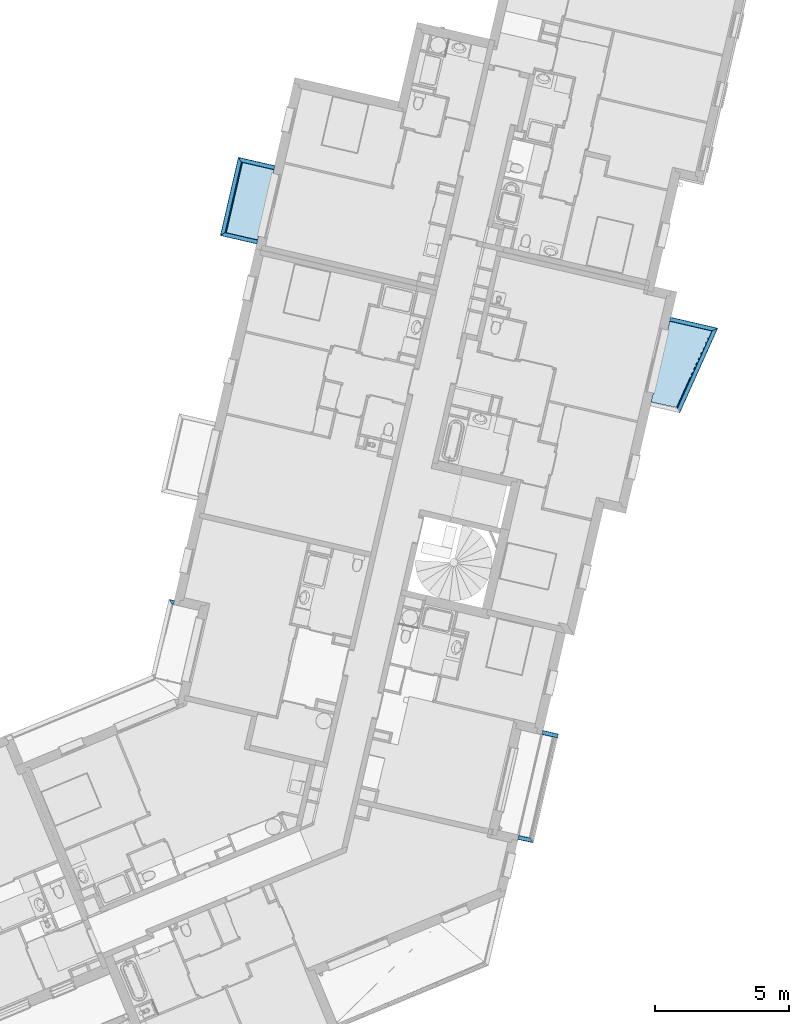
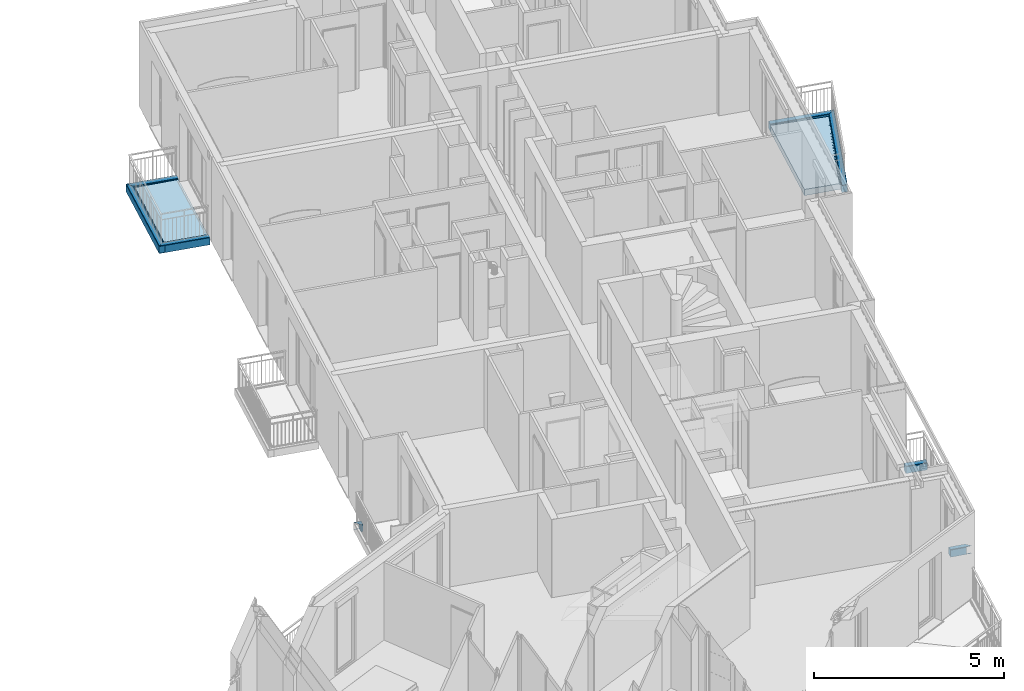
# One storey, part 2 of 91: 10 slabs.
"""IFC2X3 building model written with IfcOpenShell, lengths in metres."""

from ifc_helpers import new_model, entity, si_unit, converted_unit, derived_unit, money_unit, direction, frame, origin_with_axes, place, context, subcontext, project, spatial, faceted_brep, material, type_object, element, save


model = new_model("IFC2X3")

# Units and contexts
model_context = context("Model", 3, precision=1e-05, world=origin_with_axes(), true_north=direction((0.0, 1.0)))
body_context = subcontext(model_context, "Body", "Model", "MODEL_VIEW")
ifc_project = project(units=[si_unit("LENGTHUNIT", "METRE"), si_unit("AREAUNIT", "SQUARE_METRE"), si_unit("VOLUMEUNIT", "CUBIC_METRE"), converted_unit("PLANEANGLEUNIT", "DEGREE", entity("IfcPlaneAngleMeasure", 0.0174532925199), si_unit("PLANEANGLEUNIT", "RADIAN"), dimensions=[0, 0, 0, 0, 0, 0, 0]), si_unit("SOLIDANGLEUNIT", "STERADIAN"), money_unit("EUR"), converted_unit("TIMEUNIT", "Year", entity("IfcTimeMeasure", 31556926.0), si_unit("TIMEUNIT", "SECOND"), dimensions=[0, 0, 1, 0, 0, 0, 0]), si_unit("MASSUNIT", "GRAM", prefix="KILO"), si_unit("THERMODYNAMICTEMPERATUREUNIT", "DEGREE_CELSIUS"), si_unit("LUMINOUSINTENSITYUNIT", "LUMEN"), si_unit("ENERGYUNIT", "JOULE", prefix="MEGA"), derived_unit("THERMALCONDUCTANCEUNIT", [(si_unit("POWERUNIT", "WATT"), 1), (si_unit("LENGTHUNIT", "METRE"), -1), (si_unit("THERMODYNAMICTEMPERATUREUNIT", "KELVIN"), -1)]), derived_unit("SPECIFICHEATCAPACITYUNIT", [(si_unit("ENERGYUNIT", "JOULE"), 1), (si_unit("MASSUNIT", "GRAM", prefix="KILO"), -1), (si_unit("THERMODYNAMICTEMPERATUREUNIT", "KELVIN"), -1)]), derived_unit("MASSDENSITYUNIT", [(si_unit("MASSUNIT", "GRAM", prefix="KILO"), 1), (si_unit("VOLUMEUNIT", "CUBIC_METRE"), -1)])], contexts=[model_context])

# Site, building, storey
site_placement = place(None, origin_with_axes())
site = spatial("IfcSite", under=ifc_project, at=site_placement, Name="Site", CompositionType="ELEMENT")
building_placement = place(site_placement, origin_with_axes())
building = spatial("IfcBuilding", under=site, at=building_placement, Name="Bâtiment", CompositionType="ELEMENT")
storey_placement = place(building_placement, frame((0.0, 0.0, 5.44), z_axis=(0.0, 0.0, 1.0), x_axis=(1.0, 0.0, 0.0)))
storey = spatial("IfcBuildingStorey", under=building, at=storey_placement, Name="R+2", CompositionType="ELEMENT", Elevation=5.44)

# Slabs
ifc_material = material(Name="Béton")
slab_type_1 = type_object("IfcSlabType", Name="Nez de balcon 160 x 239", PredefinedType="USERDEFINED")
slab_1_placement = place(storey_placement, frame((-6.19823951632, -13.9378943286, -0.22), z_axis=(0.0, 0.0, 1.0), x_axis=(0.974387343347, -0.224876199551, 0.0)))
element("IfcSlab", 1, at=slab_1_placement, inside=storey, type_object=slab_type_1, material=ifc_material, Name="Nez-de-balcon béton", ObjectType="BALCONY", PredefinedType="USERDEFINED", context=body_context, shape_type="Brep", body=[
    faceted_brep([(0.550259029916, -0.0347409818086, 0.0), (0.553544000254, -0.0314560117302, 0.00622819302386), (0.553544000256, -0.16, 0.00622819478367), (0.550259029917, -0.16, 0.0), (-0.0149999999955, -0.0347409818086, 0.0), (-0.0149999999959, -0.0314560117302, 0.00622819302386), (0.560129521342, -0.0248704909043, 0.00872064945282), (0.560129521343, -0.16, 0.00872064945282), (-0.0149999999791, -0.16, 0.02), (-0.0149999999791, -0.16, 0.00999999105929), (-0.0149999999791, -0.16, 0.00872064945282), (-0.0149999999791, -0.16, 0.0), (0.585000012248, -0.16, 0.00872064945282), (0.585000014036, -0.16, 0.22), (-0.0149999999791, -0.16, 0.22), (-0.0149999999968, -0.0248704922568, 0.00872065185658), (0.585000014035, -0.0248704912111, 0.00872065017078), (-0.015, 0.0, 0.02), (-0.015, 0.0, 0.00999999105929), (-0.015, 0.0, 0.00872065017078), (0.585000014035, 0.0, 0.230000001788), (0.585000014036, -0.150605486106, 0.230000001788), (0.585000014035, -0.018284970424, 0.00622819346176), (0.585000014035, -0.015, 0.0), (0.585000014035, 0.0, 0.0), (0.58433602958, -0.150019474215, 0.230623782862), (-0.0149999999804, -0.150019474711, 0.230623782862), (-0.015, 0.0, 0.22), (-0.0149999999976, -0.0182849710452, 0.00622819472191), (-0.015, 0.0, 0.0), (-0.015, 0.0, 0.230000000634), (-0.014999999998, -0.0150000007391, 0.0), (0.575019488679, -0.00998052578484, 0.239376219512), (-0.0149999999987, -0.0099805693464, 0.239376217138)], [[[0, 1, 2, 3]], [[1, 0, 4, 5]], [[1, 6, 7, 2]], [[8, 9, 10, 11, 3, 2, 7, 12, 13, 14]], [[0, 3, 11, 4]], [[15, 5, 4, 11, 10]], [[6, 1, 5, 15]], [[6, 16, 12, 7]], [[17, 18, 9, 8]], [[19, 15, 10, 9, 18]], [[20, 21, 13, 12, 16, 22, 23, 24]], [[21, 25, 26, 14, 13]], [[27, 17, 8, 14]], [[16, 6, 15, 28, 22]], [[20, 24, 29, 19, 18, 17, 27, 30]], [[15, 19, 29, 31, 28]], [[20, 32, 25, 21]], [[23, 22, 28, 31]], [[24, 23, 31, 29]], [[25, 32, 33, 26]], [[30, 27, 14, 26, 33]], [[32, 20, 30, 33]]]),
])
slab_2_placement = place(storey_placement, frame((-6.56490289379, -18.1280761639, -0.22), z_axis=(0.0, 0.0, 1.0), x_axis=(-0.977900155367, 0.209072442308, 0.0)))
element("IfcSlab", 2, at=slab_2_placement, inside=storey, type_object=slab_type_1, material=ifc_material, Name="Nez-de-balcon béton", ObjectType="BALCONY", PredefinedType="USERDEFINED", context=body_context, shape_type="Brep", body=[
    faceted_brep([(0.59983577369, -0.0150000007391, 0.0), (0.60007863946, 0.0, 0.0), (0.60007863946, 0.0, 0.00872065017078), (0.599675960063, -0.0248704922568, 0.00872065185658), (0.59978258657, -0.0182849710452, 0.00622819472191), (0.0150019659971, 0.0, 0.0), (0.0147591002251, -0.0150000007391, 0.0), (0.60007863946, 0.0, 0.00999999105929), (0.018287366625, 0.0, 0.00622819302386), (0.0248737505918, 0.0, 0.00872064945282), (0.160020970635, 0.0, 0.00872065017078), (0.160020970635, 0.0, 0.22), (0.150625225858, 0.0, 0.230000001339), (0.60007863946, 0.0, 0.23), (0.60007863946, 0.0, 0.22), (0.60007863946, 0.0, 0.02), (0.597488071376, -0.16, 0.00999999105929), (0.597488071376, -0.16, 0.00872064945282), (0.0179913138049, -0.0182849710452, 0.00622819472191), (0.159618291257, -0.0248704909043, 0.00872064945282), (0.0244710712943, -0.0248704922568, 0.00872065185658), (0.157430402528, -0.16, 0.00872064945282), (0.157430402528, -0.16, 0.22), (0.150028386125, -0.000663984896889, 0.230623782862), (0.14761016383, -0.150019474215, 0.230623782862), (0.00982023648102, -0.00998052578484, 0.239376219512), (0.599917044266, -0.00998052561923, 0.239376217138), (0.597488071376, -0.16, 0.22), (0.597649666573, -0.150019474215, 0.230623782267), (0.597488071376, -0.16, 0.02), (0.157430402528, -0.16, 0.0), (0.597488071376, -0.16, 0.0), (0.599516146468, -0.0347409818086, 0.0), (0.599569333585, -0.0314560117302, 0.00622819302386), (0.159511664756, -0.0314560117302, 0.00622819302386), (0.159458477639, -0.0347409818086, 0.0)], [[[0, 1, 2, 3, 4]], [[5, 1, 0, 6]], [[7, 2, 1, 5, 8, 9, 10, 11, 12, 13, 14, 15]], [[3, 2, 7, 16, 17]], [[18, 4, 3, 19, 20]], [[6, 0, 4, 18]], [[8, 5, 6, 18]], [[20, 9, 8, 18]], [[20, 19, 10, 9]], [[11, 10, 19, 21, 22]], [[23, 12, 11, 22, 24]], [[25, 26, 13, 12, 23]], [[27, 14, 13, 26, 28]], [[29, 15, 14, 27]], [[16, 7, 15, 29]], [[22, 21, 30, 31, 17, 16, 29, 27]], [[31, 32, 33, 3, 17]], [[19, 3, 33, 34]], [[34, 35, 30, 21, 19]], [[27, 28, 24, 22]], [[24, 25, 23]], [[24, 28, 26, 25]], [[35, 32, 31, 30]], [[34, 33, 32, 35]]]),
])
slab_3_placement = place(storey_placement, frame((-17.5515634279, 7.40618405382, -0.22), z_axis=(0.0, 0.0, 1.0), x_axis=(-0.224876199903, -0.974387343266, 0.0)))
element("IfcSlab", 3, at=slab_3_placement, inside=storey, type_object=slab_type_1, material=ifc_material, Name="Nez-de-balcon béton", ObjectType="BALCONY", PredefinedType="USERDEFINED", context=body_context, shape_type="Brep", body=[
    faceted_brep([(3.0, 0.16, 0.00872064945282), (2.97512950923, 0.16, 0.00872065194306), (2.96854398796, 0.16, 0.00622819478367), (2.96525901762, 0.16, 0.0), (0.0347409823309, 0.16, 0.0), (0.0314560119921, 0.16, 0.00622819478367), (0.0248704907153, 0.16, 0.00872065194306), (0.0, 0.16, 0.00872064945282), (-1.78813897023e-09, 0.16, 0.22), (3.00000000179, 0.16, 0.22), (3.0, 0.0248704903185, 0.00872065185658), (2.97512950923, 0.0248704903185, 0.00872065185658), (2.96854398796, 0.0314560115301, 0.00622819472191), (2.96525901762, 0.0347409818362, 0.0), (0.0347409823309, 0.0347409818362, 0.0), (0.0314560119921, 0.0314560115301, 0.00622819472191), (0.0248704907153, 0.0248704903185, 0.00872065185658), (0.0, 0.0248704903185, 0.00872065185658), (-1.78813941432e-09, 0.018284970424, 0.00622819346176), (-1.78813808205e-09, 0.015, 0.0), (-1.78813852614e-09, 0.0, 0.0), (-1.78813808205e-09, 0.0, 0.230000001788), (-1.78813808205e-09, 0.150605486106, 0.230000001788), (0.000663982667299, 0.150019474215, 0.230623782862), (2.99933601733, 0.150019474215, 0.230623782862), (3.00000000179, 0.150605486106, 0.230000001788), (3.00000000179, 0.018284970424, 0.00622819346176), (3.00000000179, 0.0, 0.230000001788), (3.00000000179, 0.0, 0.0), (3.00000000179, 0.015, 0.0), (0.0099805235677, 0.00998052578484, 0.239376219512), (2.99001947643, 0.00998052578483, 0.239376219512)], [[[0, 1, 2, 3, 4, 5, 6, 7, 8, 9]], [[10, 11, 1, 0]], [[12, 2, 1, 11]], [[12, 13, 3, 2]], [[4, 3, 13, 14]], [[15, 5, 4, 14]], [[15, 16, 6, 5]], [[7, 6, 16, 17]], [[8, 7, 17, 18, 19, 20, 21, 22]], [[22, 23, 24, 25, 9, 8]], [[26, 10, 0, 9, 25, 27, 28, 29]], [[16, 11, 10, 26, 18, 17]], [[15, 12, 11, 16]], [[14, 13, 12, 15]], [[19, 18, 26, 29]], [[20, 19, 29, 28]], [[21, 20, 28, 27]], [[21, 30, 23, 22]], [[23, 30, 31, 24]], [[31, 27, 25, 24]], [[30, 21, 27, 31]]]),
])
slab_4_placement = place(storey_placement, frame((-17.5515634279, 7.40618405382, -0.22), z_axis=(0.0, 0.0, 1.0), x_axis=(0.974387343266, -0.224876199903, 0.0)))
element("IfcSlab", 4, at=slab_4_placement, inside=storey, type_object=slab_type_1, material=ifc_material, Name="Nez-de-balcon béton", ObjectType="BALCONY", PredefinedType="USERDEFINED", context=body_context, shape_type="Brep", body=[
    faceted_brep([(0.015, 0.0, 0.0), (0.015, -0.0150000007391, 0.0), (0.0182849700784, -0.0182849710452, 0.00622819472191), (0.0182849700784, 0.0, 0.00622819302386), (1.40000000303, -0.015, 0.0), (1.40000000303, 0.0, 0.0), (1.40000000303, -0.018284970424, 0.00622819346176), (0.0248704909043, -0.0248704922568, 0.00872065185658), (0.0248704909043, 0.0, 0.00872064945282), (0.16, 0.0, 0.00872065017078), (0.16, 0.0, 0.22), (0.150605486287, 0.0, 0.230000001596), (1.40000000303, 0.0, 0.23), (1.40000000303, -0.16, 0.22), (1.40000000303, -0.16, 0.0), (1.40000000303, -0.0347409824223, 0.0), (1.40000000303, -0.0314560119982, 0.00622819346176), (1.40000000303, -0.0248704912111, 0.00872065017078), (1.40000000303, -0.00998052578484, 0.239376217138), (1.40000000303, -0.150019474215, 0.230623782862), (0.16, -0.0248704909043, 0.00872064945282), (0.16, -0.16, 0.00872064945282), (0.16, -0.16, 0.22), (0.150019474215, -0.150019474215, 0.230623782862), (0.150019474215, -0.000663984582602, 0.230623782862), (0.0099805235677, -0.00998052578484, 0.239376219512), (0.16, -0.16, 0.0), (0.16, -0.0347409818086, 0.0), (0.16, -0.0314560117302, 0.00622819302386)], [[[0, 1, 2, 3]], [[4, 1, 0, 5]], [[6, 2, 1, 4]], [[3, 2, 7, 8]], [[5, 0, 3, 8, 9, 10, 11, 12]], [[13, 14, 15, 16, 17, 6, 4, 5, 12, 18, 19]], [[17, 20, 7, 2, 6]], [[8, 7, 20, 9]], [[20, 21, 22, 10, 9]], [[10, 22, 23, 24, 11]], [[12, 11, 24, 25, 18]], [[22, 21, 26, 14, 13]], [[14, 26, 27, 15]], [[16, 15, 27, 28]], [[17, 16, 28, 20]], [[18, 25, 23, 19]], [[19, 23, 22, 13]], [[28, 27, 26, 21, 20]], [[24, 23, 25]]]),
])
slab_5_placement = place(storey_placement, frame((-18.2261920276, 4.48302202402, -0.22), z_axis=(0.0, 0.0, 1.0), x_axis=(0.974387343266, -0.224876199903, 0.0)))
element("IfcSlab", 5, at=slab_5_placement, inside=storey, type_object=slab_type_1, material=ifc_material, Name="Nez-de-balcon béton", ObjectType="BALCONY", PredefinedType="USERDEFINED", context=body_context, shape_type="Brep", body=[
    faceted_brep([(0.0182849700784, 0.0182849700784, 0.00622819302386), (0.015, 0.015, 0.0), (0.015, 0.0, 0.0), (0.0182849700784, 0.0, 0.00622819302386), (1.39999999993, 0.015, 0.0), (1.39999999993, 0.018284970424, 0.00622819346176), (1.39999999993, 0.0, 0.0), (0.150605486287, 0.0, 0.230000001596), (0.16, 0.0, 0.22), (0.16, 0.0, 0.00872065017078), (0.0248704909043, 0.0, 0.00872064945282), (1.39999999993, 0.0, 0.23), (0.0248704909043, 0.0248704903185, 0.00872065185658), (0.16, 0.0248704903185, 0.00872065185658), (1.39999999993, 0.0248704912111, 0.00872065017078), (1.39999999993, 0.00998052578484, 0.239376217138), (1.39999999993, 0.0314560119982, 0.00622819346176), (1.39999999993, 0.0347409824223, 0.0), (1.39999999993, 0.16, 0.0), (1.39999999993, 0.16, 0.22), (1.39999999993, 0.150019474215, 0.230623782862), (0.16, 0.16, 0.22), (0.150019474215, 0.000663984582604, 0.230623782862), (0.150019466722, 0.150019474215, 0.23062378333), (0.16, 0.16, 0.00872064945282), (0.0099805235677, 0.00998052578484, 0.239376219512), (0.16, 0.0314560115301, 0.00622819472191), (0.16, 0.0347409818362, 0.0), (0.16, 0.16, 0.0)], [[[0, 1, 2, 3]], [[4, 1, 0, 5]], [[6, 2, 1, 4]], [[7, 8, 9, 10, 3, 2, 6, 11]], [[0, 3, 10, 12]], [[0, 12, 13, 14, 5]], [[15, 11, 6, 4, 5, 14, 16, 17, 18, 19, 20]], [[21, 8, 7, 22, 23]], [[24, 13, 9, 8, 21]], [[10, 9, 13, 12]], [[25, 22, 7, 11, 15]], [[14, 13, 26, 16]], [[16, 26, 27, 17]], [[18, 17, 27, 28]], [[18, 28, 24, 21, 19]], [[19, 21, 23, 20]], [[20, 23, 25, 15]], [[23, 22, 25]], [[27, 26, 13, 24, 28]]]),
])
slab_6_placement = place(storey_placement, frame((-20.1387201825, -9.05128364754, -0.21), z_axis=(0.0, 0.0, 1.0), x_axis=(0.974387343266, -0.224876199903, 0.0)))
element("IfcSlab", 6, at=slab_6_placement, inside=storey, type_object=slab_type_1, material=ifc_material, Name="Nez-de-balcon béton", ObjectType="BALCONY", PredefinedType="USERDEFINED", context=body_context, shape_type="Brep", body=[
    faceted_brep([(0.0182849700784, 0.0, 0.00622819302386), (0.0182849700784, -0.0182849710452, 0.00622819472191), (0.0248704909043, -0.0248704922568, 0.00872065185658), (0.0248704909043, 0.0, 0.00872064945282), (0.015, 0.0, 0.0), (0.015, -0.0150000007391, 0.0), (0.219999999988, -0.0248704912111, 0.00872065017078), (0.16, -0.0248704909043, 0.00872064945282), (0.219999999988, -0.018284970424, 0.00622819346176), (0.16, 0.0, 0.00872065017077), (0.219999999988, 0.0, 0.0), (0.16, 0.0, 0.22), (0.150605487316, 0.0, 0.230000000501), (0.219999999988, 0.0, 0.23), (0.219999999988, -0.015, 0.0), (0.219999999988, -0.0314560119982, 0.00622819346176), (0.16, -0.0314560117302, 0.00622819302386), (0.219999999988, -0.150019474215, 0.230623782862), (0.219999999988, -0.16, 0.22), (0.219999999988, -0.16, 0.0), (0.219999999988, -0.0347409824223, 0.0), (0.219999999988, -0.00998052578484, 0.239376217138), (0.16, -0.16, 0.00872064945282), (0.16, -0.16, 0.22), (0.150019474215, -0.150019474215, 0.230623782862), (0.150019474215, -0.00066398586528, 0.230623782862), (0.00998052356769, -0.00998052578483, 0.239376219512), (0.16, -0.0347409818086, 0.0), (0.16, -0.16, 0.0)], [[[0, 1, 2, 3]], [[4, 5, 1, 0]], [[6, 7, 2, 1, 8]], [[3, 2, 7, 9]], [[10, 4, 0, 3, 9, 11, 12, 13]], [[14, 5, 4, 10]], [[8, 1, 5, 14]], [[6, 15, 16, 7]], [[17, 18, 19, 20, 15, 6, 8, 14, 10, 13, 21]], [[7, 22, 23, 11, 9]], [[11, 23, 24, 25, 12]], [[13, 12, 25, 26, 21]], [[15, 20, 27, 16]], [[16, 27, 28, 22, 7]], [[17, 24, 23, 18]], [[23, 22, 28, 19, 18]], [[19, 28, 27, 20]], [[21, 26, 24, 17]], [[25, 24, 26]]]),
])
slab_7_placement = place(storey_placement, frame((0.307025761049, 1.04328030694, -0.22), z_axis=(0.0, 0.0, 1.0), x_axis=(-0.409502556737, -0.912308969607, 0.0)))
element("IfcSlab", 7, at=slab_7_placement, inside=storey, type_object=slab_type_1, material=ifc_material, Name="Nez-de-balcon béton", ObjectType="BALCONY", PredefinedType="USERDEFINED", context=body_context, shape_type="Brep", body=[
    faceted_brep([(3.49736326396, -0.16, 0.00872064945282), (3.4720118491, -0.16, 0.00872064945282), (3.44530942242, -0.0248704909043, 0.00872064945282), (3.47066083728, -0.0248704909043, 0.00872064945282), (3.46195049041, -0.16, 0.0), (3.46529898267, -0.16, 0.00622819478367), (3.49736326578, -0.16, 0.22), (0.0316169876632, -0.16, 0.22), (0.0316169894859, -0.16, 0.00872064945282), (0.0569684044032, -0.16, 0.00872064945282), (0.063681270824, -0.16, 0.00622819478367), (0.0670297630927, -0.16, 0.0), (3.43989789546, -0.0314560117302, 0.00622819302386), (3.46935949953, -0.018284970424, 0.00622819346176), (0.0302659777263, -0.0248704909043, 0.00872064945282), (0.00491456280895, -0.0248704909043, 0.00872064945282), (0.00361322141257, -0.018284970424, 0.00622819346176), (3.46871036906, -0.015, 0.0), (3.4657462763, 0.0, 0.0), (3.46574627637, -3.55494245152e-10, 0.230000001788), (3.49550685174, -0.150605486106, 0.230000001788), (3.43719853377, -0.0347409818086, 0.0), (3.49471422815, -0.150019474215, 0.230623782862), (0.0303215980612, -0.150019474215, 0.230623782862), (0.0297605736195, -0.150605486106, 0.230000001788), (-1.82271553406e-09, 0.0, 0.230000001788), (-1.82271686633e-09, 0.0, 0.0), (0.00296409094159, -0.015, 0.0), (0.0382801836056, -0.0314560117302, 0.00622819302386), (0.0422778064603, -0.0347409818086, 0.0), (3.45754496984, -0.00998052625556, 0.239376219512), (0.0121457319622, -0.00998052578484, 0.239376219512)], [[[0, 1, 2, 3]], [[4, 5, 1, 0, 6, 7, 8, 9, 10, 11]], [[5, 12, 2, 1]], [[13, 3, 2, 14, 15, 16]], [[6, 0, 3, 13, 17, 18, 19, 20]], [[4, 21, 12, 5]], [[7, 6, 20, 22, 23, 24]], [[16, 15, 8, 7, 24, 25, 26, 27]], [[15, 14, 9, 8]], [[10, 9, 14, 28]], [[10, 28, 29, 11]], [[29, 21, 4, 11]], [[14, 2, 12, 28]], [[16, 27, 17, 13]], [[27, 26, 18, 17]], [[26, 25, 19, 18]], [[22, 20, 19, 30]], [[28, 12, 21, 29]], [[31, 23, 22, 30]], [[24, 23, 31, 25]], [[25, 31, 30, 19]]]),
])
slab_8_placement = place(storey_placement, frame((0.307025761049, 1.04328030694, -0.22), z_axis=(0.0, 0.0, 1.0), x_axis=(-0.974387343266, 0.224876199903, 0.0)))
element("IfcSlab", 8, at=slab_8_placement, inside=storey, type_object=slab_type_1, material=ifc_material, Name="Nez-de-balcon béton", ObjectType="BALCONY", PredefinedType="USERDEFINED", context=body_context, shape_type="Brep", body=[
    faceted_brep([(1.80634800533, 0.0314560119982, 0.00622819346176), (1.80634800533, 0.0347409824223, 0.0), (1.80634800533, 0.16, 0.0), (1.80634800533, 0.16, 0.22), (1.80634800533, 0.150019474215, 0.230623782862), (1.80634800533, 0.00998052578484, 0.239376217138), (1.80634800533, 0.0, 0.23), (1.80634800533, 0.0, 0.0), (1.80634800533, 0.015, 0.0), (1.80634800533, 0.018284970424, 0.00622819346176), (1.80634800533, 0.0248704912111, 0.00872065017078), (0.169958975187, 0.0347409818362, 0.0), (0.16930984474, 0.0314560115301, 0.00622819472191), (0.194710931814, 0.16, 0.0), (0.194710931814, 0.16, 0.22), (0.194710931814, 0.16, 0.00872064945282), (0.182565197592, 0.150019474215, 0.230623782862), (0.0121457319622, 0.00998052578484, 0.239376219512), (0.153517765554, 0.0, 0.230000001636), (0.153051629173, 0.000663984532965, 0.230623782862), (0.0152900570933, 0.0, 0.0), (0.163093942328, 0.0, 0.22), (0.163093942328, 0.0, 0.00872065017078), (0.0253514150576, 0.0, 0.00872064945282), (0.0186385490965, 0.0, 0.00622819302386), (0.0182541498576, 0.015, 0.0), (0.0222517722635, 0.0182849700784, 0.00622819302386), (0.168008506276, 0.0248704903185, 0.00872065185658), (0.0302659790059, 0.0248704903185, 0.00872065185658)], [[[0, 1, 2, 3, 4, 5, 6, 7, 8, 9, 10]], [[11, 1, 0, 12]], [[13, 2, 1, 11]], [[14, 3, 2, 13, 15]], [[16, 4, 3, 14]], [[17, 5, 4, 16]], [[18, 6, 5, 17, 19]], [[20, 7, 6, 18, 21, 22, 23, 24]], [[25, 8, 7, 20]], [[26, 9, 8, 25]], [[27, 10, 9, 26, 28]], [[12, 0, 10, 27]], [[15, 13, 11, 12, 27]], [[21, 14, 15, 27, 22]], [[19, 16, 14, 21, 18]], [[19, 17, 16]], [[23, 22, 27, 28]], [[23, 28, 26, 24]], [[26, 25, 20, 24]]]),
])
slab_type_2 = type_object("IfcSlabType", Name="Béton", PredefinedType="USERDEFINED")
slab_9_placement = place(storey_placement, frame((-2.18165575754, -1.9315105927, -0.22), z_axis=(0.0, 0.0, 1.0), x_axis=(1.0, 0.0, 0.0)))
element("IfcSlab", 9, at=slab_9_placement, inside=storey, type_object=slab_type_2, material=ifc_material, Name="Dalle de balcon béton", ObjectType="BALCONY", PredefinedType="USERDEFINED", context=body_context, shape_type="Brep", body=[
    faceted_brep([(0.941533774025, 0.0163800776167, 0.18532142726), (0.695691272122, 3.22438446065, 0.198149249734), (0.0, 0.223980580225, 0.199619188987), (2.23318056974, 2.86955150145, 0.160000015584), (0.692618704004, 3.22509359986, 0.198277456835), (0.941533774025, 0.0163800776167, 0.0), (0.0, 0.223980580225, 0.0), (0.950656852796, 0.0122850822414, 0.160000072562), (0.692618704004, 3.22509359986, 0.0), (2.26297744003, 2.86267478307, 0.16), (2.26297744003, 2.86267478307, 0.0), (0.978026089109, 0.0, 0.0), (0.978026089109, 0.0, 0.16)], [[[0, 1, 2]], [[0, 3, 1]], [[4, 2, 1]], [[5, 0, 2, 6]], [[0, 7, 3]], [[8, 4, 1, 3, 9, 10]], [[6, 2, 4, 8]], [[11, 12, 7, 0, 5]], [[8, 10, 11, 5, 6]], [[7, 12, 9, 3]], [[10, 9, 12, 11]]]),
])
slab_10_placement = place(storey_placement, frame((-18.0343098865, 4.324097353, -0.22), z_axis=(0.0, 0.0, 1.0), x_axis=(1.0, 0.0, 0.0)))
element("IfcSlab", 10, at=slab_10_placement, inside=storey, type_object=slab_type_2, material=ifc_material, Name="Dalle de balcon béton", ObjectType="BALCONY", PredefinedType="USERDEFINED", context=body_context, shape_type="Brep", body=[
    faceted_brep([(1.81090855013, 2.61135804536, 0.198273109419), (0.641643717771, 2.88120950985, 0.185321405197), (0.0389755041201, 0.269851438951, 0.185321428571), (1.2082403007, 0.0, 0.198273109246), (0.602668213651, 2.89020454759, 0.0), (0.602668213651, 2.89020454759, 0.16), (0.631899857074, 2.88345827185, 0.160000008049), (1.81090855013, 2.61135804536, 0.0), (0.0292315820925, 0.272100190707, 0.16), (1.2082403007, 0.0, 0.0), (0.0, 0.278846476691, 0.16), (0.0, 0.278846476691, 0.0)], [[[0, 1, 2, 3]], [[4, 5, 6, 1, 0, 7]], [[8, 2, 1, 6]], [[9, 3, 2, 8, 10, 11]], [[7, 0, 3, 9]], [[11, 10, 5, 4]], [[10, 8, 6, 5]], [[11, 4, 7, 9]]]),
])

save(model, "model.ifc")
